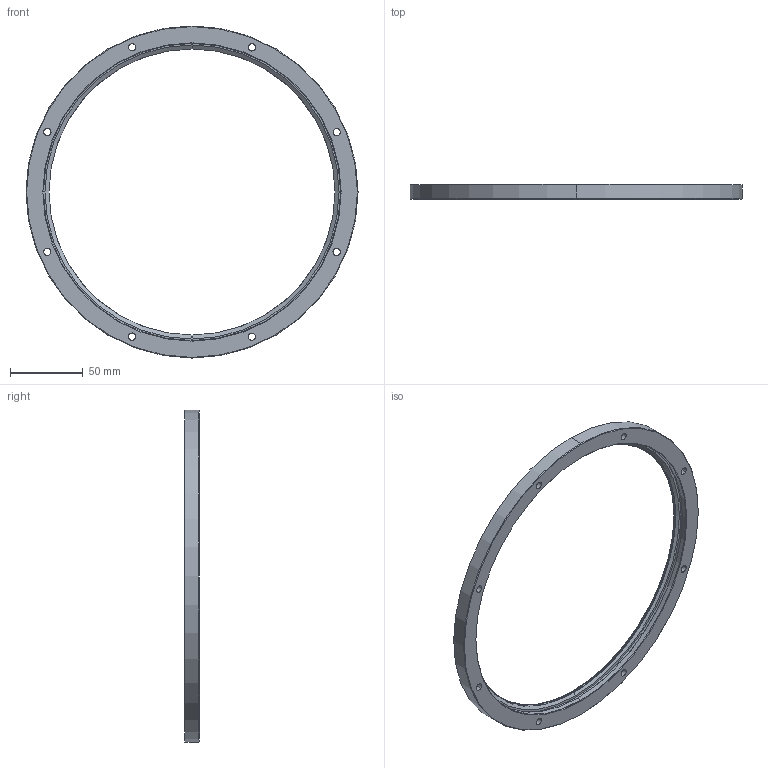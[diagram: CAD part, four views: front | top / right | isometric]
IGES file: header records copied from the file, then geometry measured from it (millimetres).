
Start section: 3D InterOp IGES (v. 2019 1.0.2), Spatial Corp. Copyright (c) 1999-2017.
Global section: file name: RIV 228 R360.igs; native system: Spatial Corp.; preprocessor: 3D InterOp GENERIC/IGES 3.0; author: Noname; organization: Noname; date: 20220719.140145; units: millimetre
Bounding box: 228.2 x 10 x 228.2 mm (x, y, z)
Surface area: 41550.3 mm2 (no closed solid volume)
Topology: 0 solids, 0 shells, 62 faces, 288 edges, 284 vertices
Faces by surface type: revolution 50, extrusion 12
